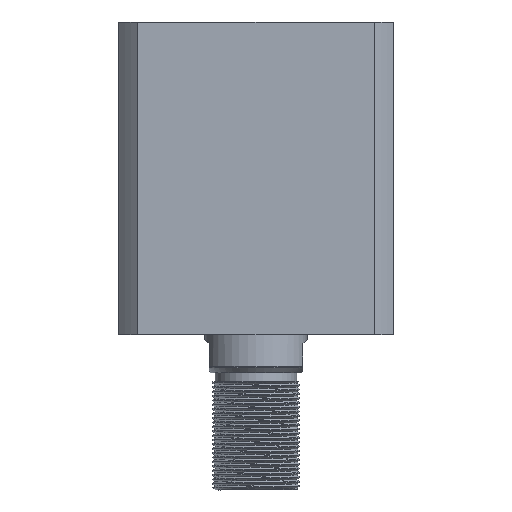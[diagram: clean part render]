
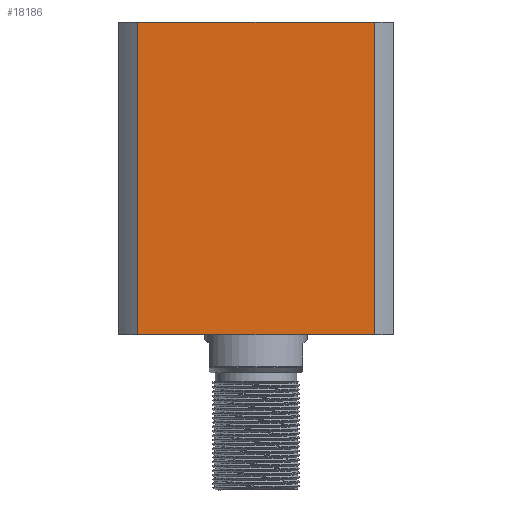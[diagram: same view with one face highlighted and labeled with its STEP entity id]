
A CAD part, front view. The second image highlights one B-rep face of the part: STEP entity #18186.
In plain terms, the highlighted planar face has unit normal (0, -1, 0) as drawn and (0, 1, 0) by its records, which use the part's own axes.
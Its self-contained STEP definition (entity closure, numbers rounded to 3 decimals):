
#562 = CARTESIAN_POINT ( 'NONE',  ( -47., 47., 107. ) ) ;
#776 = EDGE_LOOP ( 'NONE', ( #6802, #21704, #2201, #19559 ) ) ;
#2201 = ORIENTED_EDGE ( 'NONE', *, *, #6551, .F. ) ;
#2227 = VERTEX_POINT ( 'NONE', #19796 ) ;
#3804 = VERTEX_POINT ( 'NONE', #4092 ) ;
#4092 = CARTESIAN_POINT ( 'NONE',  ( 40.435, 47., 0. ) ) ;
#5559 = FACE_OUTER_BOUND ( 'NONE', #776, .T. ) ;
#6551 = EDGE_CURVE ( 'NONE', #2227, #9824, #21364, .T. ) ;
#6802 = ORIENTED_EDGE ( 'NONE', *, *, #21270, .F. ) ;
#7251 = CARTESIAN_POINT ( 'NONE',  ( -40.435, 47., 0. ) ) ;
#7304 = CARTESIAN_POINT ( 'NONE',  ( 40.435, 47., -5893. ) ) ;
#7649 = EDGE_CURVE ( 'NONE', #3804, #9824, #9749, .T. ) ;
#8431 = DIRECTION ( 'NONE',  ( 0., 0., -1. ) ) ;
#8782 = CARTESIAN_POINT ( 'NONE',  ( -40.435, 47., -5893. ) ) ;
#9133 = CARTESIAN_POINT ( 'NONE',  ( -47., 47., 0. ) ) ;
#9749 = LINE ( 'NONE', #9133, #19484 ) ;
#9824 = VERTEX_POINT ( 'NONE', #7251 ) ;
#9964 = VECTOR ( 'NONE', #19644, 1000. ) ;
#10535 = DIRECTION ( 'NONE',  ( 0., 0., -1. ) ) ;
#12227 = VECTOR ( 'NONE', #10535, 1000. ) ;
#12442 = CARTESIAN_POINT ( 'NONE',  ( 40.435, 47., 107. ) ) ;
#14329 = VERTEX_POINT ( 'NONE', #12442 ) ;
#14529 = VECTOR ( 'NONE', #19436, 1000. ) ;
#15592 = EDGE_CURVE ( 'NONE', #14329, #2227, #19704, .T. ) ;
#17008 = PLANE ( 'NONE',  #21017 ) ;
#17084 = CARTESIAN_POINT ( 'NONE',  ( -47., 47., 107. ) ) ;
#18186 = ADVANCED_FACE ( 'NONE', ( #5559 ), #17008, .F. ) ;
#18817 = DIRECTION ( 'NONE',  ( 0., -1., 0. ) ) ;
#19091 = LINE ( 'NONE', #7304, #14529 ) ;
#19436 = DIRECTION ( 'NONE',  ( 0., 0., 1. ) ) ;
#19484 = VECTOR ( 'NONE', #21217, 1000. ) ;
#19559 = ORIENTED_EDGE ( 'NONE', *, *, #15592, .F. ) ;
#19644 = DIRECTION ( 'NONE',  ( -1., 0., 0. ) ) ;
#19704 = LINE ( 'NONE', #562, #9964 ) ;
#19796 = CARTESIAN_POINT ( 'NONE',  ( -40.435, 47., 107. ) ) ;
#21017 = AXIS2_PLACEMENT_3D ( 'NONE', #17084, #18817, #8431 ) ;
#21217 = DIRECTION ( 'NONE',  ( -1., 0., 0. ) ) ;
#21270 = EDGE_CURVE ( 'NONE', #3804, #14329, #19091, .T. ) ;
#21364 = LINE ( 'NONE', #8782, #12227 ) ;
#21704 = ORIENTED_EDGE ( 'NONE', *, *, #7649, .T. ) ;
